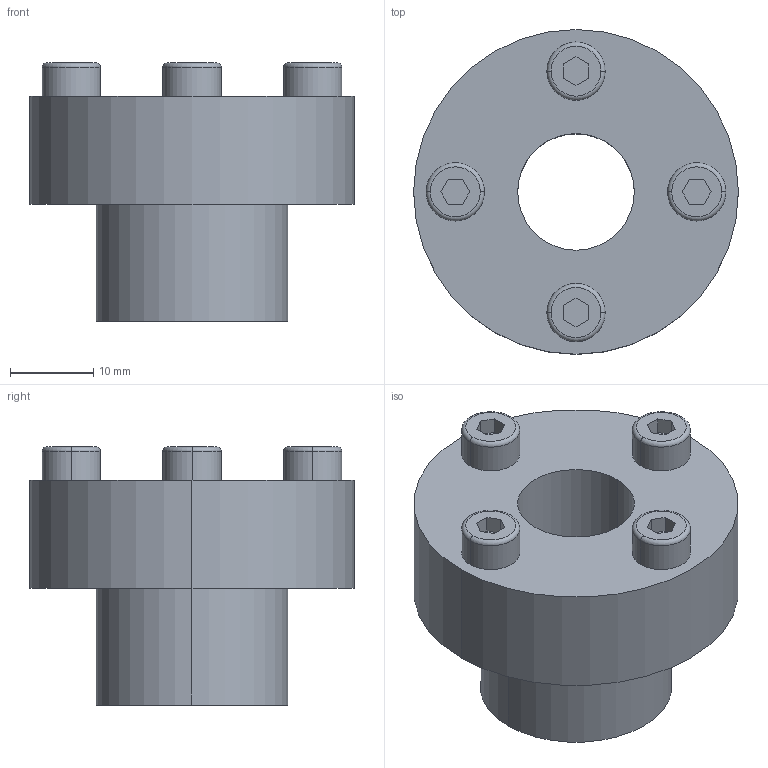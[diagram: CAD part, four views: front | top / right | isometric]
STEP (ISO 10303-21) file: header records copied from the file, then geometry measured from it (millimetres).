
FILE_DESCRIPTION (( 'STEP AP203' ), '1' );
FILE_NAME ('PL-C 14-23.STEP', '2021-10-22T08:28:27', ( '' ), ( '' ), 'SwSTEP 2.0', 'SolidWorks 2018', '' );
FILE_SCHEMA (( 'CONFIG_CONTROL_DESIGN' ));
Length unit declared in the file: millimetre
Products named in the file (1): PL-C 14-23
Bounding box: 39 x 39 x 31 mm (x, y, z)
Volume: 17738.8 mm3; surface area: 6288.9 mm2
Topology: 1 solids, 1 shells, 57 faces, 130 edges, 84 vertices
Faces by surface type: plane 35, cylinder 14, torus 8
Entity records: 1685 total; most frequent: DIRECTION 290, CARTESIAN_POINT 272, ORIENTED_EDGE 260, EDGE_CURVE 130, AXIS2_PLACEMENT_3D 102, LINE 86, VECTOR 86, VERTEX_POINT 84
